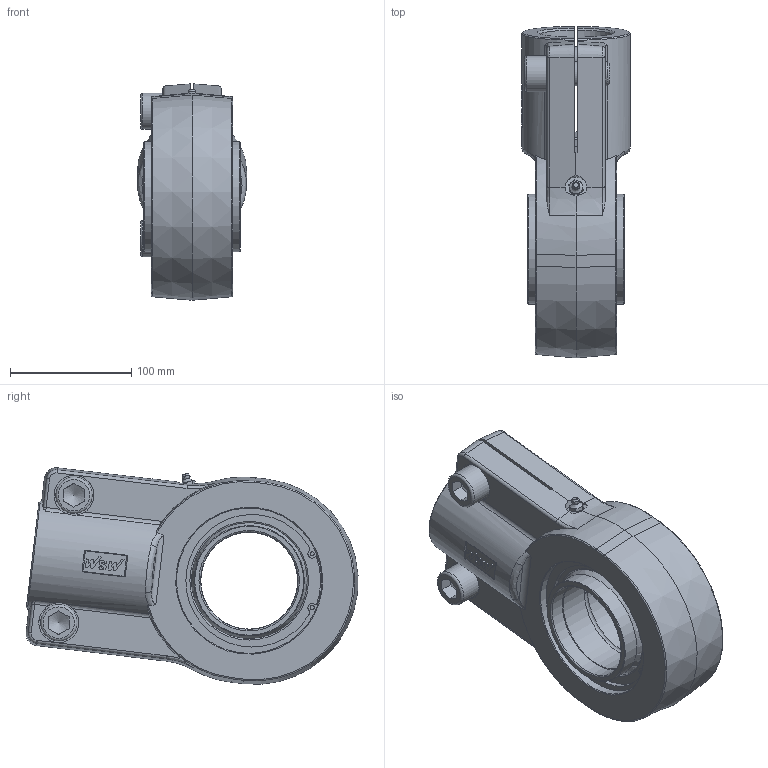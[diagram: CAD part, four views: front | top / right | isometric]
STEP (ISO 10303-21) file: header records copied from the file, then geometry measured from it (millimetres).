
FILE_DESCRIPTION((''),'2;1');
FILE_NAME('H:\WSW\Hydraulikgelenkköpfe\Aktuelle GK Zeichnungen andere Formate\WAPR..CE\WAPR..CE .STP\K-WAPR80CE.stp','2007-12-21T10:47:47',('oliver.joswig'),(''),'Autodesk Inventor 2008','Autodesk Inventor 2008','');
FILE_SCHEMA(('AUTOMOTIVE_DESIGN { 1 0 10303 214 1 1 1 1 }'));
Length unit declared in the file: millimetre
Products named in the file (7): K-WAPR80CE; GEEW_ES_IR mit Nut [Benennung=IR80LO][Breite=80 mm][Kugel=52,5 mm][Bund_D=45,5 mm][Freid_b=13 mm][Freid_D=40,5 mm][Bohr=40 mm][Fase=45 grd][R_rs=1 mm]; GEEW_ES_AR mit Nut [Benennung=AR_GEEW80ES][Kugel_dk=52,5mm][Breite=45mm][Radius_r1s=1mm][Aussendurchmessser=60mm]; F-WAPR80CE; DIN 71412  A  (Feingewinde) AM10 x 1 keg kurz; DIN 472 120 x 4; DIN EN ISO 4762  (Regelgewinde) M20 x 50
Assembly tree (8 placements, depth 2):
  K-WAPR80CE
    GEEW_ES_IR mit Nut [Benennung=IR80LO][Breite=80 mm][Kugel=52,5 mm][Bund_D=45,5 mm][Freid_b=13 mm][Freid_D=40,5 mm][Bohr=40 mm][Fase=45 grd][R_rs=1 mm]
    GEEW_ES_AR mit Nut [Benennung=AR_GEEW80ES][Kugel_dk=52,5mm][Breite=45mm][Radius_r1s=1mm][Aussendurchmessser=60mm]
    F-WAPR80CE
    DIN 71412  A  (Feingewinde) AM10 x 1 keg kurz
    DIN 472 120 x 4  x2
    DIN EN ISO 4762  (Regelgewinde) M20 x 50  x2
Bounding box: 90 x 274.09 x 178.71 mm (x, y, z)
Volume: 1828422.5 mm3; surface area: 287102.8 mm2
Topology: 8 solids, 8 shells, 297 faces, 737 edges, 465 vertices
Faces by surface type: plane 113, cylinder 73, bspline 43, cone 42, torus 23, sphere 3
Full cylindrical faces by diameter (mm): 3.5 x4, 3.789 x2, 5 x1, 6.723 x2, 10 x1, 20 x2, 30 x2, 80 x2, 81 x2, 91 x2, 120 x5, 124 x2
Entity records: 10649 total; most frequent: CARTESIAN_POINT 4544, ORIENTED_EDGE 1196, DIRECTION 1182, EDGE_CURVE 598, AXIS2_PLACEMENT_3D 471, VERTEX_POINT 407, EDGE_LOOP 365, FACE_OUTER_BOUND 270
